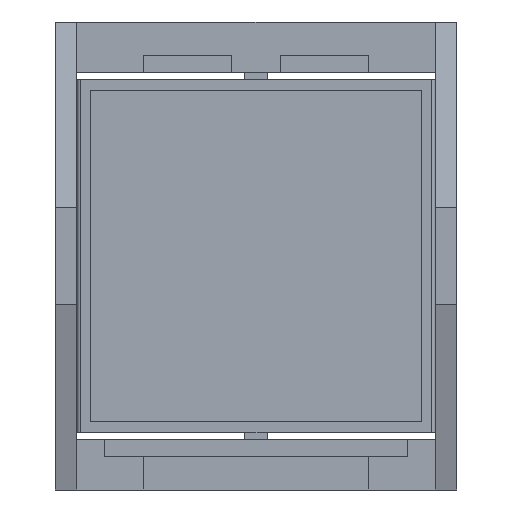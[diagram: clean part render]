
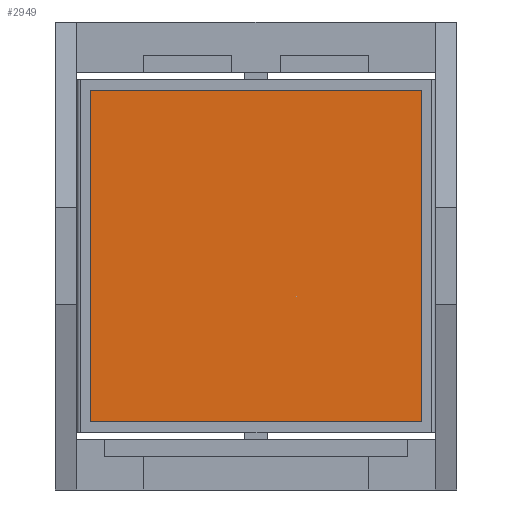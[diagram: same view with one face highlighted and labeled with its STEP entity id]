
A CAD part, front view. The second image highlights one B-rep face of the part: STEP entity #2949.
In plain terms, the highlighted planar face has unit normal (0, -1, 0).
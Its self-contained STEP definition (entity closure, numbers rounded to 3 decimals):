
#151 = EDGE_CURVE ( 'NONE', #3694, #1812, #1543, .T. ) ;
#254 = CARTESIAN_POINT ( 'NONE',  ( -6.395, -7.836, -8.193 ) ) ;
#811 = EDGE_LOOP ( 'NONE', ( #3115, #1351, #5117, #6568 ) ) ;
#812 = VECTOR ( 'NONE', #5286, 1000. ) ;
#825 = DIRECTION ( 'NONE',  ( 0., 0., 1. ) ) ;
#907 = CARTESIAN_POINT ( 'NONE',  ( 15.605, -7.836, -8.193 ) ) ;
#913 = CARTESIAN_POINT ( 'NONE',  ( 15.605, -7.836, -8.193 ) ) ;
#922 = CARTESIAN_POINT ( 'NONE',  ( -6.395, -7.836, -8.193 ) ) ;
#1005 = LINE ( 'NONE', #922, #1956 ) ;
#1213 = EDGE_CURVE ( 'NONE', #1619, #2549, #4305, .T. ) ;
#1351 = ORIENTED_EDGE ( 'NONE', *, *, #151, .T. ) ;
#1543 = LINE ( 'NONE', #2798, #6184 ) ;
#1619 = VERTEX_POINT ( 'NONE', #254 ) ;
#1628 = DIRECTION ( 'NONE',  ( -1., 0., 0. ) ) ;
#1812 = VERTEX_POINT ( 'NONE', #2632 ) ;
#1846 = FACE_OUTER_BOUND ( 'NONE', #811, .T. ) ;
#1915 = PLANE ( 'NONE',  #3218 ) ;
#1956 = VECTOR ( 'NONE', #3262, 1000. ) ;
#1985 = CARTESIAN_POINT ( 'NONE',  ( 15.605, -7.836, 13.807 ) ) ;
#2153 = EDGE_CURVE ( 'NONE', #2549, #3694, #7091, .T. ) ;
#2549 = VERTEX_POINT ( 'NONE', #907 ) ;
#2632 = CARTESIAN_POINT ( 'NONE',  ( -6.395, -7.836, 13.807 ) ) ;
#2798 = CARTESIAN_POINT ( 'NONE',  ( 15.605, -7.836, 13.807 ) ) ;
#2949 = ADVANCED_FACE ( 'NONE', ( #1846 ), #1915, .T. ) ;
#3026 = CARTESIAN_POINT ( 'NONE',  ( 15.605, -7.836, 13.807 ) ) ;
#3115 = ORIENTED_EDGE ( 'NONE', *, *, #2153, .T. ) ;
#3218 = AXIS2_PLACEMENT_3D ( 'NONE', #1985, #4345, #825 ) ;
#3262 = DIRECTION ( 'NONE',  ( 0., 0., -1. ) ) ;
#3694 = VERTEX_POINT ( 'NONE', #3026 ) ;
#4305 = LINE ( 'NONE', #6122, #4979 ) ;
#4345 = DIRECTION ( 'NONE',  ( 0., -1., 0. ) ) ;
#4979 = VECTOR ( 'NONE', #5456, 1000. ) ;
#5117 = ORIENTED_EDGE ( 'NONE', *, *, #6857, .T. ) ;
#5286 = DIRECTION ( 'NONE',  ( 0., 0., 1. ) ) ;
#5456 = DIRECTION ( 'NONE',  ( 1., 0., 0. ) ) ;
#6122 = CARTESIAN_POINT ( 'NONE',  ( 15.605, -7.836, -8.193 ) ) ;
#6184 = VECTOR ( 'NONE', #1628, 1000. ) ;
#6568 = ORIENTED_EDGE ( 'NONE', *, *, #1213, .T. ) ;
#6857 = EDGE_CURVE ( 'NONE', #1812, #1619, #1005, .T. ) ;
#7091 = LINE ( 'NONE', #913, #812 ) ;
